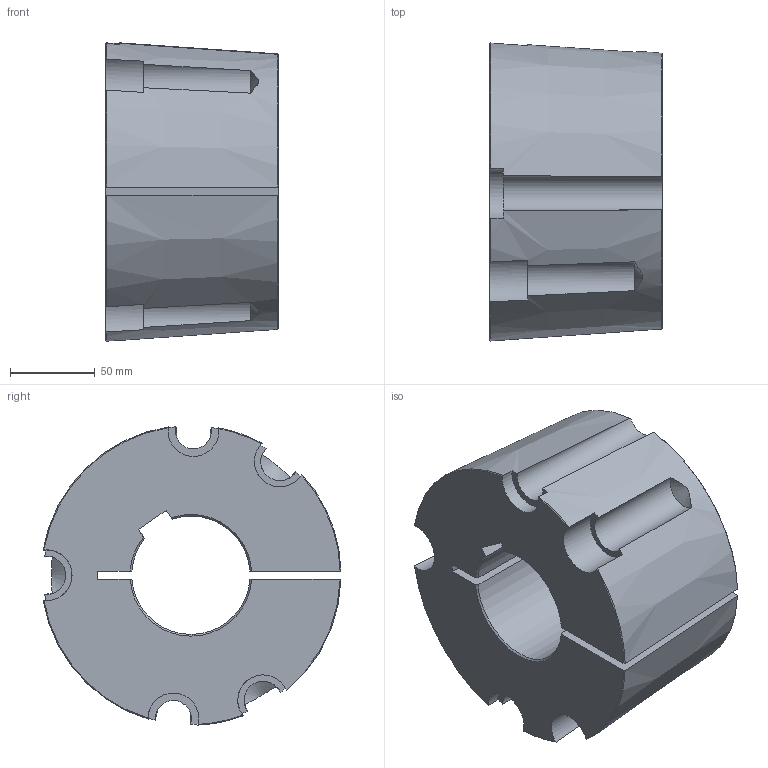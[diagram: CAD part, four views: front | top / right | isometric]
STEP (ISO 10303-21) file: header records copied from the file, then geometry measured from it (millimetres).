
FILE_DESCRIPTION(/* description */ (''),/* implementation_level */ '2;1');
FILE_NAME(/* name */ 'C:\Users\stagistaCAD\Desktop\Nuova cartella\29504070.stp',/* time_stamp */ '2018-06-29T14:09:02+02:00',/* author */ ('stagistacad'),/* organization */ (''),/* preprocessor_version */ 'ST-DEVELOPER v15.6',/* originating_system */ 'Autodesk Inventor 2015',/* authorisation */ '');
FILE_SCHEMA (('AUTOMOTIVE_DESIGN { 1 0 10303 214 3 1 1 }'));
Length unit declared in the file: millimetre
Products named in the file (1): 29504070
Bounding box: 102 x 176.23 x 176.45 mm (x, y, z)
Volume: 1786632.4 mm3; surface area: 132862.5 mm2
Topology: 1 solids, 1 shells, 51 faces, 147 edges, 98 vertices
Faces by surface type: cone 21, plane 15, cylinder 15
Entity records: 1854 total; most frequent: CARTESIAN_POINT 538, ORIENTED_EDGE 294, DIRECTION 264, EDGE_CURVE 147, AXIS2_PLACEMENT_3D 116, VERTEX_POINT 98, CIRCLE 64, FACE_OUTER_BOUND 51
